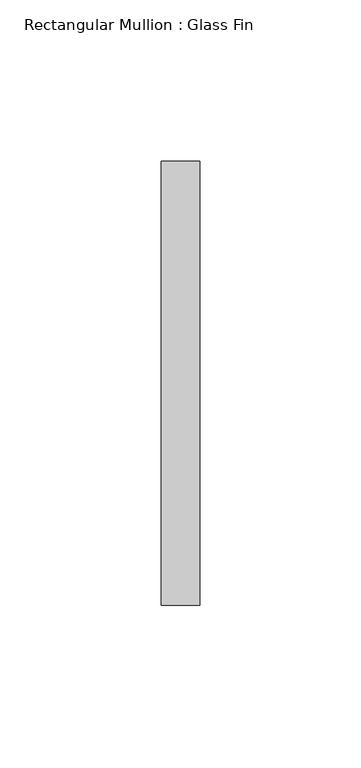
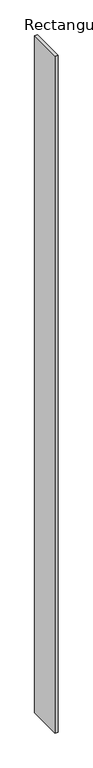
"""IFC4 building model written with IfcOpenShell, lengths in millimetres: member geometry, Rectangular Mullion : Glass Fin."""

from ifc_helpers import new_model, si_unit, frame, origin, place, context, project, spatial, polyline, outline, extrude, source, transform, mapped, element, save


def rectangular_mullion_glass_fin_37cd247f(model_context):
    return source(origin(), model_context, "Body", "SweptSolid", [
        extrude(outline(polyline([(6.0, -12.0), (6.0, -150.0), (-6.0, -150.0), (-6.0, -12.0), (6.0, -12.0)])), frame((0.0, 0.0, -2800.0), z_axis=(0.0, 0.0, 1.0), x_axis=(1.0, 0.0, 0.0)), (0.0, 0.0, 1.0), 2800.0),
    ])


if __name__ == "__main__":
    model = new_model("IFC4")
    model_context = context("Model", 3, world=origin())
    ifc_project = project(units=[si_unit("LENGTHUNIT", "METRE", prefix="MILLI")], contexts=[model_context])
    site = spatial("IfcSite", under=ifc_project)
    building = spatial("IfcBuilding", under=site)
    placement = place(None, origin())
    rectangular_mullion_glass_fin_shape = rectangular_mullion_glass_fin_37cd247f(model_context)
    element("IfcMember", 1, ObjectType="Rectangular Mullion : Glass Fin", at=placement, inside=building, context=model_context, shape_type="MappedRepresentation", body=[
        mapped(rectangular_mullion_glass_fin_shape, transform((0.0, 0.0, 0.0), x_axis=(1.0, 0.0, 0.0), y_axis=(0.0, 1.0, 0.0), z_axis=(0.0, 0.0, 1.0))),
    ])
    save(model, "model.ifc")
